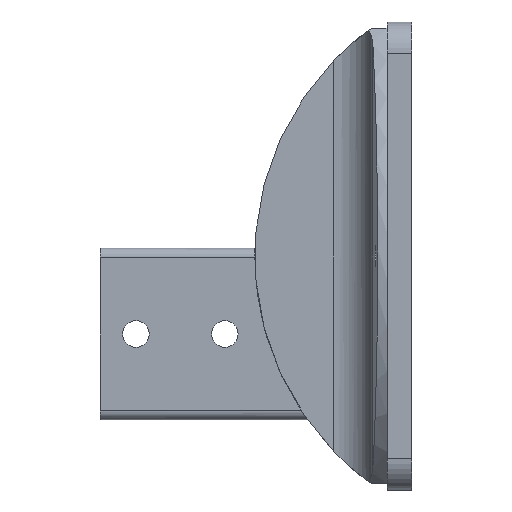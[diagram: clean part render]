
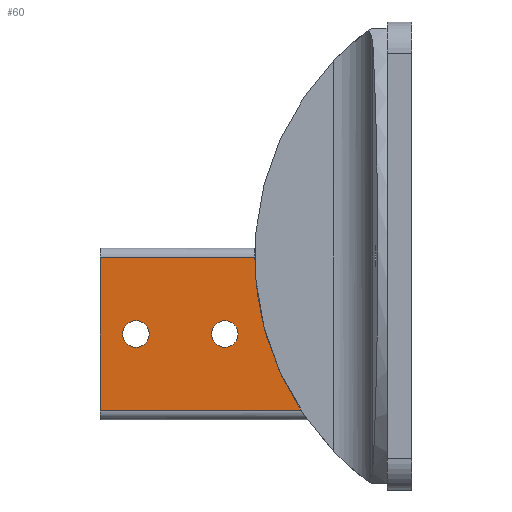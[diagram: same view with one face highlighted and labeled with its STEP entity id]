
A CAD part, left-side view. The second image highlights one B-rep face of the part: STEP entity #60.
In plain terms, the highlighted planar face has unit normal (-1, 0, 0).
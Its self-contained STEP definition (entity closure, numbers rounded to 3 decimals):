
#60 = ADVANCED_FACE ( 'NONE', ( #246, #244, #243 ), #495, .F. ) ;
#120 = LINE ( 'NONE', #932, #204 ) ;
#174 = LINE ( 'NONE', #1293, #442 ) ;
#178 = CIRCLE ( 'NONE', #753, 4.25 ) ;
#187 = CIRCLE ( 'NONE', #733, 4.25 ) ;
#198 = VECTOR ( 'NONE', #1485, 1000. ) ;
#202 = LINE ( 'NONE', #1486, #198 ) ;
#204 = VECTOR ( 'NONE', #846, 1000. ) ;
#243 = FACE_BOUND ( 'NONE', #1707, .T. ) ;
#244 = FACE_OUTER_BOUND ( 'NONE', #1706, .T. ) ;
#246 = FACE_BOUND ( 'NONE', #1703, .T. ) ;
#377 = CIRCLE ( 'NONE', #776, 4.25 ) ;
#442 = VECTOR ( 'NONE', #1292, 1000. ) ;
#464 = CIRCLE ( 'NONE', #785, 4.25 ) ;
#476 = CIRCLE ( 'NONE', #655, 90. ) ;
#492 = DIRECTION ( 'NONE',  ( 1., 0., 0. ) ) ;
#495 = PLANE ( 'NONE',  #791 ) ;
#508 = CARTESIAN_POINT ( 'NONE',  ( -27.5, 100., -24.5 ) ) ;
#510 = DIRECTION ( 'NONE',  ( 0., 0., -1. ) ) ;
#544 = EDGE_CURVE ( 'NONE', #2192, #2029, #202, .T. ) ;
#626 = EDGE_CURVE ( 'NONE', #2093, #2039, #178, .T. ) ;
#634 = EDGE_CURVE ( 'NONE', #2034, #2192, #174, .T. ) ;
#639 = EDGE_CURVE ( 'NONE', #2045, #2031, #187, .T. ) ;
#655 = AXIS2_PLACEMENT_3D ( 'NONE', #1021, #1020, #1019 ) ;
#660 = EDGE_CURVE ( 'NONE', #2031, #2045, #464, .T. ) ;
#670 = EDGE_CURVE ( 'NONE', #2039, #2093, #377, .T. ) ;
#697 = EDGE_CURVE ( 'NONE', #2163, #2034, #476, .T. ) ;
#733 = AXIS2_PLACEMENT_3D ( 'NONE', #1288, #1287, #1286 ) ;
#753 = AXIS2_PLACEMENT_3D ( 'NONE', #1323, #1322, #1305 ) ;
#776 = AXIS2_PLACEMENT_3D ( 'NONE', #1175, #1174, #1171 ) ;
#785 = AXIS2_PLACEMENT_3D ( 'NONE', #1224, #1223, #1222 ) ;
#791 = AXIS2_PLACEMENT_3D ( 'NONE', #508, #492, #510 ) ;
#837 = EDGE_CURVE ( 'NONE', #2029, #2163, #120, .T. ) ;
#846 = DIRECTION ( 'NONE',  ( 0., -1., 0. ) ) ;
#932 = CARTESIAN_POINT ( 'NONE',  ( -27.5, 100., 24.5 ) ) ;
#982 = CARTESIAN_POINT ( 'NONE',  ( -27.5, 100., 24.5 ) ) ;
#995 = CARTESIAN_POINT ( 'NONE',  ( -27.5, 60., 4.25 ) ) ;
#1008 = CARTESIAN_POINT ( 'NONE',  ( -27.5, 88.5, 4.25 ) ) ;
#1019 = DIRECTION ( 'NONE',  ( 0., 0., 1. ) ) ;
#1020 = DIRECTION ( 'NONE',  ( -1., 0., 0. ) ) ;
#1021 = CARTESIAN_POINT ( 'NONE',  ( -27.5, -39.64, 25. ) ) ;
#1171 = DIRECTION ( 'NONE',  ( 0., 0., 1. ) ) ;
#1172 = CARTESIAN_POINT ( 'NONE',  ( -27.5, 50.358, 24.5 ) ) ;
#1174 = DIRECTION ( 'NONE',  ( 1., 0., 0. ) ) ;
#1175 = CARTESIAN_POINT ( 'NONE',  ( -27.5, 88.5, 0. ) ) ;
#1216 = CARTESIAN_POINT ( 'NONE',  ( -27.5, 100., -24.5 ) ) ;
#1222 = DIRECTION ( 'NONE',  ( 0., 0., 1. ) ) ;
#1223 = DIRECTION ( 'NONE',  ( 1., 0., 0. ) ) ;
#1224 = CARTESIAN_POINT ( 'NONE',  ( -27.5, 60., 0. ) ) ;
#1260 = CARTESIAN_POINT ( 'NONE',  ( -27.5, 88.5, -4.25 ) ) ;
#1286 = DIRECTION ( 'NONE',  ( 0., 0., 1. ) ) ;
#1287 = DIRECTION ( 'NONE',  ( 1., 0., 0. ) ) ;
#1288 = CARTESIAN_POINT ( 'NONE',  ( -27.5, 60., 0. ) ) ;
#1292 = DIRECTION ( 'NONE',  ( 0., 1., 0. ) ) ;
#1293 = CARTESIAN_POINT ( 'NONE',  ( -27.5, 100., -24.5 ) ) ;
#1305 = DIRECTION ( 'NONE',  ( 0., 0., 1. ) ) ;
#1322 = DIRECTION ( 'NONE',  ( 1., 0., 0. ) ) ;
#1323 = CARTESIAN_POINT ( 'NONE',  ( -27.5, 88.5, 0. ) ) ;
#1355 = CARTESIAN_POINT ( 'NONE',  ( -27.5, 35.525, -24.5 ) ) ;
#1367 = CARTESIAN_POINT ( 'NONE',  ( -27.5, 60., -4.25 ) ) ;
#1485 = DIRECTION ( 'NONE',  ( 0., 0., 1. ) ) ;
#1486 = CARTESIAN_POINT ( 'NONE',  ( -27.5, 100., -24.5 ) ) ;
#1609 = ORIENTED_EDGE ( 'NONE', *, *, #660, .T. ) ;
#1658 = ORIENTED_EDGE ( 'NONE', *, *, #837, .F. ) ;
#1703 = EDGE_LOOP ( 'NONE', ( #1928, #1805 ) ) ;
#1706 = EDGE_LOOP ( 'NONE', ( #1658, #1762, #1953, #1790 ) ) ;
#1707 = EDGE_LOOP ( 'NONE', ( #1609, #1993 ) ) ;
#1762 = ORIENTED_EDGE ( 'NONE', *, *, #544, .F. ) ;
#1790 = ORIENTED_EDGE ( 'NONE', *, *, #697, .F. ) ;
#1805 = ORIENTED_EDGE ( 'NONE', *, *, #626, .T. ) ;
#1928 = ORIENTED_EDGE ( 'NONE', *, *, #670, .T. ) ;
#1953 = ORIENTED_EDGE ( 'NONE', *, *, #634, .F. ) ;
#1993 = ORIENTED_EDGE ( 'NONE', *, *, #639, .T. ) ;
#2029 = VERTEX_POINT ( 'NONE', #982 ) ;
#2031 = VERTEX_POINT ( 'NONE', #995 ) ;
#2034 = VERTEX_POINT ( 'NONE', #1355 ) ;
#2039 = VERTEX_POINT ( 'NONE', #1008 ) ;
#2045 = VERTEX_POINT ( 'NONE', #1367 ) ;
#2093 = VERTEX_POINT ( 'NONE', #1260 ) ;
#2163 = VERTEX_POINT ( 'NONE', #1172 ) ;
#2192 = VERTEX_POINT ( 'NONE', #1216 ) ;
